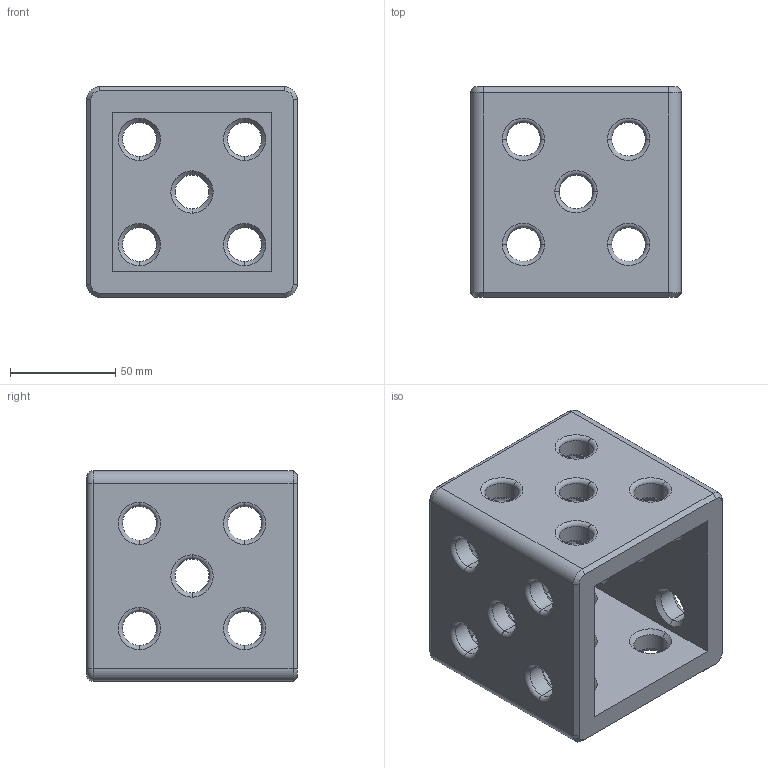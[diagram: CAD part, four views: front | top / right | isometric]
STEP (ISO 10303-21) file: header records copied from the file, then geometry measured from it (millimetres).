
FILE_DESCRIPTION (( 'STEP AP203' ), '1' );
FILE_NAME ('160396_100x100x100.step', '2014-08-11T15:31:52', ( 'User' ), ( '' ), 'SwSTEP 2.0', 'SolidWorks 2014', '' );
FILE_SCHEMA (( 'CONFIG_CONTROL_DESIGN' ));
Length unit declared in the file: millimetre
Products named in the file (1): 160396_100x100x100
Bounding box: 100 x 100 x 100 mm (x, y, z)
Volume: 422349.1 mm3; surface area: 87346.2 mm2
Topology: 1 solids, 1 shells, 179 faces, 414 edges, 238 vertices
Faces by surface type: cylinder 58, cone 54, torus 52, plane 15
Entity records: 5263 total; most frequent: DIRECTION 1044, CARTESIAN_POINT 832, ORIENTED_EDGE 828, AXIS2_PLACEMENT_3D 450, EDGE_CURVE 414, CIRCLE 270, VERTEX_POINT 238, EDGE_LOOP 230
